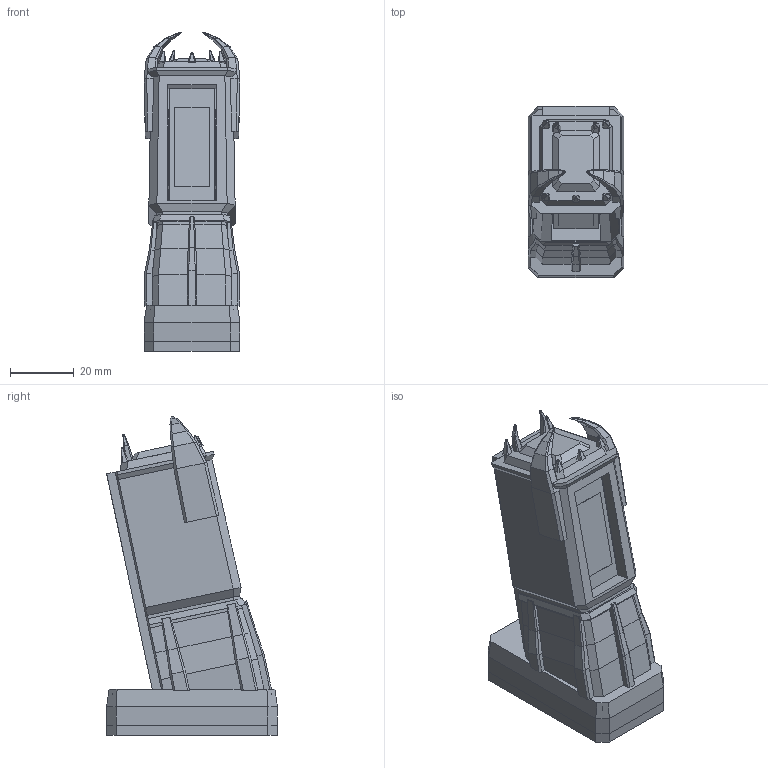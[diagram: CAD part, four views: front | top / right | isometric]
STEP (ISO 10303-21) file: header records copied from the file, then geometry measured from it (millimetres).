
FILE_DESCRIPTION(('Open CASCADE Model'),'2;1');
FILE_NAME('Open CASCADE Shape Model','2026-11-18T20:35:57',('Author'),( 'Open CASCADE'),'Open CASCADE STEP processor 7.9','Open CASCADE 7.9' ,'Unknown');
FILE_SCHEMA(('AUTOMOTIVE_DESIGN { 1 0 10303 214 1 1 1 1 }'));
Length unit declared in the file: millimetre
Products named in the file (9): Assembly_with_hardware_envelopes; tower_shell; base_tray; rear_cover; controller_pcb; usb_connector; display_envelope; active_screen; display_header_cables
Assembly tree (8 placements, depth 2):
  Assembly_with_hardware_envelopes
    tower_shell
    base_tray
    rear_cover
    controller_pcb
    usb_connector
    display_envelope
    active_screen
    display_header_cables
Bounding box: 30 x 53.5 x 99.86 mm (x, y, z)
Volume: 47487.1 mm3; surface area: 35053.8 mm2
Topology: 8 solids, 8 shells, 574 faces, 1443 edges, 902 vertices
Faces by surface type: bspline 286, plane 266, cylinder 22
Full cylindrical faces by diameter (mm): 1.6 x6, 2.4 x6, 4 x6
Entity records: 35873 total; most frequent: CARTESIAN_POINT 9994, DIRECTION 3437, ORIENTED_EDGE 2886, PCURVE 2886, DEFINITIONAL_REPRESENTATION 2886, LINE 2725, VECTOR 2725, B_SPLINE_CURVE_WITH_KNOTS 1516
